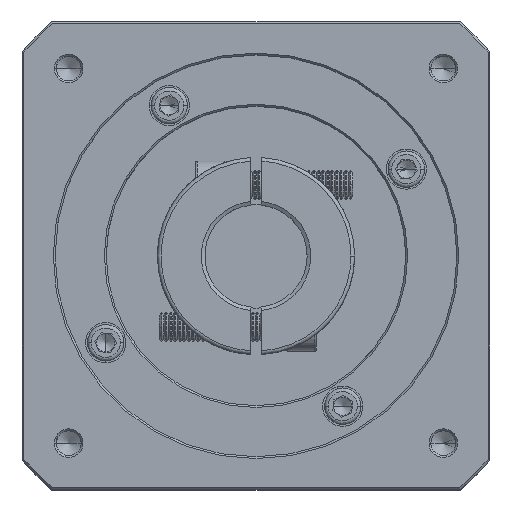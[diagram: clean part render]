
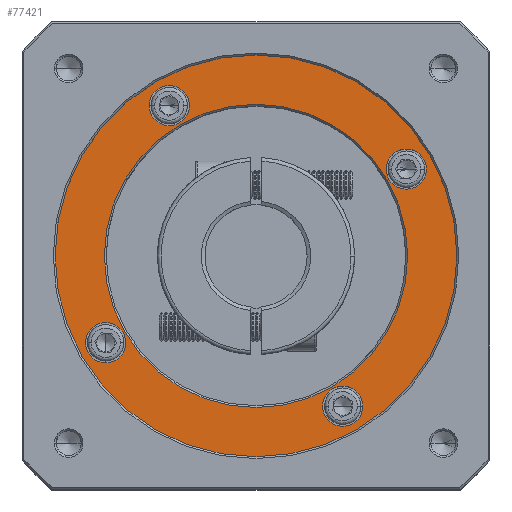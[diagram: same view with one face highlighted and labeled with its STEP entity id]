
A CAD part, top view. The second image highlights one B-rep face of the part: STEP entity #77421.
In plain terms, the highlighted planar face has unit normal (0, 0, 1).
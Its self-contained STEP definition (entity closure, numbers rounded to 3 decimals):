
#716 = VERTEX_POINT ( 'NONE', #24861 ) ;
#1035 = DIRECTION ( 'NONE',  ( 0., 0., -1. ) ) ;
#3181 = CIRCLE ( 'NONE', #36574, 5.5 ) ;
#3367 = CARTESIAN_POINT ( 'NONE',  ( 24.343, 116.637, -4.938 ) ) ;
#4218 = FACE_BOUND ( 'NONE', #94521, .T. ) ;
#5174 = DIRECTION ( 'NONE',  ( 1., 0., 0. ) ) ;
#6266 = VERTEX_POINT ( 'NONE', #65360 ) ;
#7747 = DIRECTION ( 'NONE',  ( 0., 0., -1. ) ) ;
#9213 = CIRCLE ( 'NONE', #96589, 5.5 ) ;
#9279 = AXIS2_PLACEMENT_3D ( 'NONE', #76162, #39811, #40188 ) ;
#9776 = FACE_BOUND ( 'NONE', #46102, .T. ) ;
#10158 = CIRCLE ( 'NONE', #46673, 55. ) ;
#11442 = CARTESIAN_POINT ( 'NONE',  ( 101.479, 140.387, -4.938 ) ) ;
#11689 = VERTEX_POINT ( 'NONE', #97741 ) ;
#12100 = DIRECTION ( 'NONE',  ( 0., 0., -1. ) ) ;
#12425 = VERTEX_POINT ( 'NONE', #27568 ) ;
#13654 = CARTESIAN_POINT ( 'NONE',  ( 89.593, 75.501, -4.938 ) ) ;
#13785 = ORIENTED_EDGE ( 'NONE', *, *, #62778, .T. ) ;
#14285 = AXIS2_PLACEMENT_3D ( 'NONE', #53587, #1035, #36969 ) ;
#18176 = EDGE_CURVE ( 'NONE', #716, #6266, #96205, .T. ) ;
#20407 = AXIS2_PLACEMENT_3D ( 'NONE', #36543, #61745, #53933 ) ;
#23917 = DIRECTION ( 'NONE',  ( 0., 0., 1. ) ) ;
#24861 = CARTESIAN_POINT ( 'NONE',  ( 95.093, 75.501, -4.938 ) ) ;
#27195 = CIRCLE ( 'NONE', #55053, 41.5 ) ;
#27568 = CARTESIAN_POINT ( 'NONE',  ( 36.593, 157.773, -4.938 ) ) ;
#28378 = VERTEX_POINT ( 'NONE', #11442 ) ;
#30120 = DIRECTION ( 'NONE',  ( 0., 0., 1. ) ) ;
#31375 = DIRECTION ( 'NONE',  ( 0., 0., -1. ) ) ;
#31390 = VERTEX_POINT ( 'NONE', #79789 ) ;
#31415 = CARTESIAN_POINT ( 'NONE',  ( 65.843, 116.637, -4.938 ) ) ;
#32409 = CARTESIAN_POINT ( 'NONE',  ( 65.843, 116.637, -4.938 ) ) ;
#33112 = CARTESIAN_POINT ( 'NONE',  ( 42.093, 157.773, -4.938 ) ) ;
#36543 = CARTESIAN_POINT ( 'NONE',  ( 24.707, 92.887, -4.938 ) ) ;
#36574 = AXIS2_PLACEMENT_3D ( 'NONE', #80477, #53397, #61216 ) ;
#36959 = DIRECTION ( 'NONE',  ( 0., 0., -1. ) ) ;
#36969 = DIRECTION ( 'NONE',  ( 1., 0., 0. ) ) ;
#39811 = DIRECTION ( 'NONE',  ( 0., 0., -1. ) ) ;
#39834 = EDGE_LOOP ( 'NONE', ( #105176, #70564 ) ) ;
#40188 = DIRECTION ( 'NONE',  ( 1., 0., 0. ) ) ;
#40237 = EDGE_CURVE ( 'NONE', #105281, #96003, #46995, .T. ) ;
#40923 = VERTEX_POINT ( 'NONE', #54607 ) ;
#42150 = EDGE_LOOP ( 'NONE', ( #108421, #43572 ) ) ;
#42425 = DIRECTION ( 'NONE',  ( 1., 0., 0. ) ) ;
#42455 = DIRECTION ( 'NONE',  ( 1., 0., 0. ) ) ;
#42876 = FACE_BOUND ( 'NONE', #39834, .T. ) ;
#43572 = ORIENTED_EDGE ( 'NONE', *, *, #100157, .T. ) ;
#45764 = AXIS2_PLACEMENT_3D ( 'NONE', #58821, #58045, #75780 ) ;
#46102 = EDGE_LOOP ( 'NONE', ( #94980, #78865 ) ) ;
#46494 = PLANE ( 'NONE',  #73390 ) ;
#46673 = AXIS2_PLACEMENT_3D ( 'NONE', #32409, #23917, #42425 ) ;
#46910 = ORIENTED_EDGE ( 'NONE', *, *, #113713, .T. ) ;
#46995 = CIRCLE ( 'NONE', #14285, 41.5 ) ;
#48292 = VERTEX_POINT ( 'NONE', #98935 ) ;
#48402 = EDGE_CURVE ( 'NONE', #11689, #31390, #53208, .T. ) ;
#51217 = FACE_BOUND ( 'NONE', #73370, .T. ) ;
#51254 = DIRECTION ( 'NONE',  ( 0., 0., -1. ) ) ;
#53208 = CIRCLE ( 'NONE', #96010, 55. ) ;
#53397 = DIRECTION ( 'NONE',  ( 0., 0., -1. ) ) ;
#53587 = CARTESIAN_POINT ( 'NONE',  ( 65.843, 116.637, -4.938 ) ) ;
#53933 = DIRECTION ( 'NONE',  ( 1., 0., 0. ) ) ;
#54607 = CARTESIAN_POINT ( 'NONE',  ( 19.207, 92.887, -4.938 ) ) ;
#55053 = AXIS2_PLACEMENT_3D ( 'NONE', #103937, #7747, #42455 ) ;
#55654 = CARTESIAN_POINT ( 'NONE',  ( 65.843, 116.637, -4.938 ) ) ;
#57756 = DIRECTION ( 'NONE',  ( 0., 0., 1. ) ) ;
#58045 = DIRECTION ( 'NONE',  ( 0., 0., -1. ) ) ;
#58821 = CARTESIAN_POINT ( 'NONE',  ( 42.093, 157.773, -4.938 ) ) ;
#59286 = EDGE_CURVE ( 'NONE', #40923, #84697, #89363, .T. ) ;
#59459 = DIRECTION ( 'NONE',  ( 1., 0., 0. ) ) ;
#61216 = DIRECTION ( 'NONE',  ( 1., 0., 0. ) ) ;
#61745 = DIRECTION ( 'NONE',  ( 0., 0., -1. ) ) ;
#62778 = EDGE_CURVE ( 'NONE', #75739, #12425, #113972, .T. ) ;
#62837 = CARTESIAN_POINT ( 'NONE',  ( 47.593, 157.773, -4.938 ) ) ;
#63907 = CARTESIAN_POINT ( 'NONE',  ( 107.343, 116.637, -4.938 ) ) ;
#65360 = CARTESIAN_POINT ( 'NONE',  ( 84.093, 75.501, -4.938 ) ) ;
#66142 = AXIS2_PLACEMENT_3D ( 'NONE', #13654, #31375, #109852 ) ;
#70564 = ORIENTED_EDGE ( 'NONE', *, *, #59286, .T. ) ;
#70877 = ORIENTED_EDGE ( 'NONE', *, *, #79108, .T. ) ;
#72141 = CARTESIAN_POINT ( 'NONE',  ( 106.979, 140.387, -4.938 ) ) ;
#73370 = EDGE_LOOP ( 'NONE', ( #106075, #70877 ) ) ;
#73390 = AXIS2_PLACEMENT_3D ( 'NONE', #31415, #57756, #5174 ) ;
#75739 = VERTEX_POINT ( 'NONE', #62837 ) ;
#75780 = DIRECTION ( 'NONE',  ( 1., 0., 0. ) ) ;
#76162 = CARTESIAN_POINT ( 'NONE',  ( 106.979, 140.387, -4.938 ) ) ;
#77181 = ORIENTED_EDGE ( 'NONE', *, *, #40237, .T. ) ;
#77421 = ADVANCED_FACE ( 'NONE', ( #83091, #80298, #51217, #9776, #4218, #42876 ), #46494, .T. ) ;
#78075 = CIRCLE ( 'NONE', #9279, 5.5 ) ;
#78865 = ORIENTED_EDGE ( 'NONE', *, *, #95887, .T. ) ;
#79108 = EDGE_CURVE ( 'NONE', #28378, #48292, #9213, .T. ) ;
#79574 = CIRCLE ( 'NONE', #100988, 5.5 ) ;
#79789 = CARTESIAN_POINT ( 'NONE',  ( 10.843, 116.637, -4.938 ) ) ;
#80298 = FACE_BOUND ( 'NONE', #85841, .T. ) ;
#80477 = CARTESIAN_POINT ( 'NONE',  ( 89.593, 75.501, -4.938 ) ) ;
#83091 = FACE_OUTER_BOUND ( 'NONE', #42150, .T. ) ;
#84606 = EDGE_CURVE ( 'NONE', #48292, #28378, #78075, .T. ) ;
#84697 = VERTEX_POINT ( 'NONE', #102798 ) ;
#85498 = EDGE_CURVE ( 'NONE', #84697, #40923, #107986, .T. ) ;
#85841 = EDGE_LOOP ( 'NONE', ( #46910, #77181 ) ) ;
#88253 = AXIS2_PLACEMENT_3D ( 'NONE', #101316, #12100, #91661 ) ;
#89363 = CIRCLE ( 'NONE', #88253, 5.5 ) ;
#89727 = EDGE_CURVE ( 'NONE', #12425, #75739, #79574, .T. ) ;
#91661 = DIRECTION ( 'NONE',  ( 1., 0., 0. ) ) ;
#94521 = EDGE_LOOP ( 'NONE', ( #13785, #95112 ) ) ;
#94980 = ORIENTED_EDGE ( 'NONE', *, *, #18176, .T. ) ;
#95112 = ORIENTED_EDGE ( 'NONE', *, *, #89727, .T. ) ;
#95887 = EDGE_CURVE ( 'NONE', #6266, #716, #3181, .T. ) ;
#96003 = VERTEX_POINT ( 'NONE', #63907 ) ;
#96010 = AXIS2_PLACEMENT_3D ( 'NONE', #55654, #30120, #109764 ) ;
#96205 = CIRCLE ( 'NONE', #66142, 5.5 ) ;
#96589 = AXIS2_PLACEMENT_3D ( 'NONE', #72141, #36959, #98771 ) ;
#97741 = CARTESIAN_POINT ( 'NONE',  ( 120.843, 116.637, -4.938 ) ) ;
#98771 = DIRECTION ( 'NONE',  ( 1., 0., 0. ) ) ;
#98935 = CARTESIAN_POINT ( 'NONE',  ( 112.479, 140.387, -4.938 ) ) ;
#100157 = EDGE_CURVE ( 'NONE', #31390, #11689, #10158, .T. ) ;
#100988 = AXIS2_PLACEMENT_3D ( 'NONE', #33112, #51254, #59459 ) ;
#101316 = CARTESIAN_POINT ( 'NONE',  ( 24.707, 92.887, -4.938 ) ) ;
#102798 = CARTESIAN_POINT ( 'NONE',  ( 30.207, 92.887, -4.938 ) ) ;
#103937 = CARTESIAN_POINT ( 'NONE',  ( 65.843, 116.637, -4.938 ) ) ;
#105176 = ORIENTED_EDGE ( 'NONE', *, *, #85498, .T. ) ;
#105281 = VERTEX_POINT ( 'NONE', #3367 ) ;
#106075 = ORIENTED_EDGE ( 'NONE', *, *, #84606, .T. ) ;
#107986 = CIRCLE ( 'NONE', #20407, 5.5 ) ;
#108421 = ORIENTED_EDGE ( 'NONE', *, *, #48402, .T. ) ;
#109764 = DIRECTION ( 'NONE',  ( 1., 0., 0. ) ) ;
#109852 = DIRECTION ( 'NONE',  ( 1., 0., 0. ) ) ;
#113713 = EDGE_CURVE ( 'NONE', #96003, #105281, #27195, .T. ) ;
#113972 = CIRCLE ( 'NONE', #45764, 5.5 ) ;
